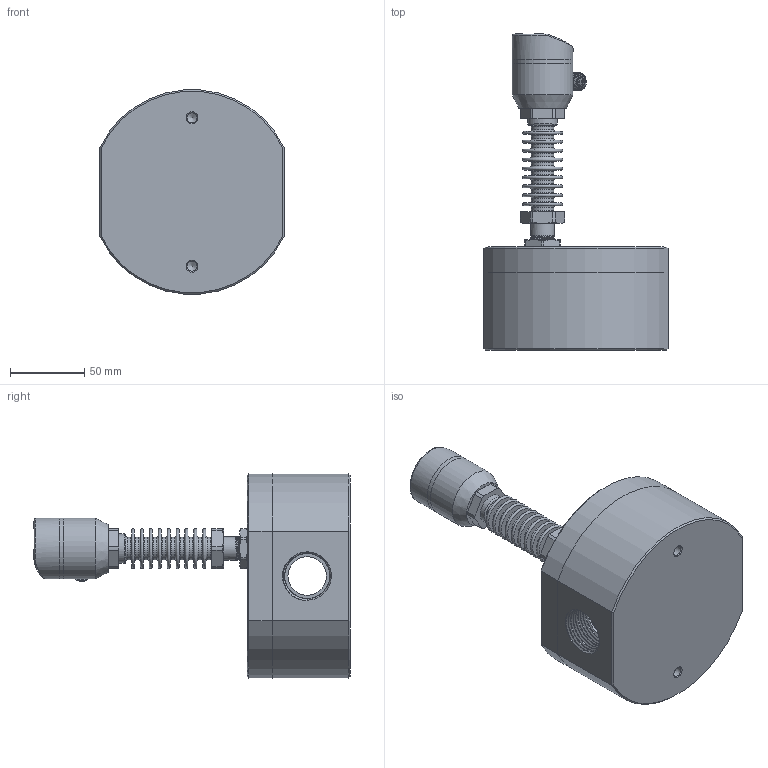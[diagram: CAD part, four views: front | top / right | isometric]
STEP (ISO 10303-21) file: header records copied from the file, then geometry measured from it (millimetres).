
FILE_DESCRIPTION( (''), '2;1');
FILE_NAME( 'QZKA_M25_high-temp.step', '2024-04-03T16:49:54+08:00', (''), (''), '', '', '');
FILE_SCHEMA (('AUTOMOTIVE_DESIGN { 1 0 10303 214 3 1 1 1 }'));
Length unit declared in the file: millimetre
Products named in the file (1): QZKA M25_high-temp
Bounding box: 124 x 213.3 x 137.49 mm (x, y, z)
Volume: 966191.9 mm3; surface area: 158449.4 mm2
Topology: 14 solids, 15 shells, 788 faces, 1772 edges, 1085 vertices
Faces by surface type: plane 301, cylinder 209, cone 144, torus 82, bspline 46, sphere 6
Full cylindrical faces by diameter (mm): 1 x5, 2.7 x4, 6.8 x10, 7.76 x7, 8 x8, 8.4 x1, 8.5 x8, 9.7 x1, 9.8 x1, 10 x1, 10.1 x1, 11.6 x1, 12 x2, 13 x7, 14 x8, 15 x10, 15.9 x1, 19.5 x2, 20 x1, 23 x3, 26 x5, 26.1 x1, 37 x1, 41 x3
Entity records: 39657 total; most frequent: CARTESIAN_POINT 21984, DIRECTION 3382, ORIENTED_EDGE 2948, EDGE_CURVE 1474, AXIS2_PLACEMENT_3D 1413, EDGE_LOOP 1087, VERTEX_POINT 1018, ADVANCED_FACE 786
